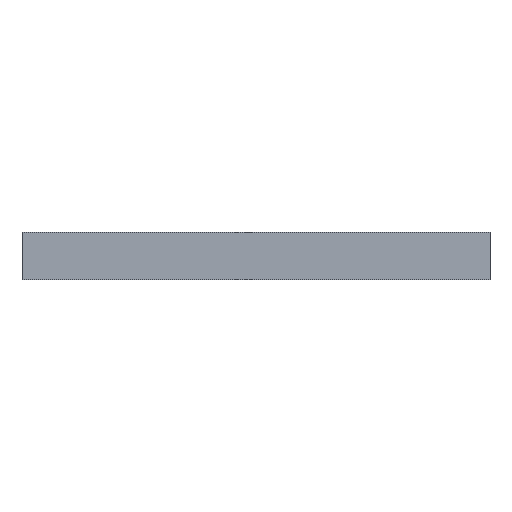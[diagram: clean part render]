
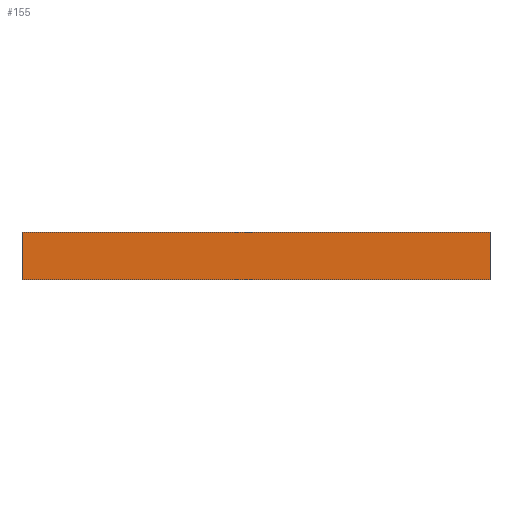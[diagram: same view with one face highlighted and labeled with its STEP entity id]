
A CAD part, front view. The second image highlights one B-rep face of the part: STEP entity #155.
In plain terms, the highlighted planar face has unit normal (0, -1, 0).
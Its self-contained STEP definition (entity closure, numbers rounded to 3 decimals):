
#37 = DIRECTION ( 'NONE',  ( 0., 0., 1. ) ) ;
#44 = EDGE_CURVE ( 'NONE', #732, #150, #873, .T. ) ;
#76 = CARTESIAN_POINT ( 'NONE',  ( 413.978, -893.158, 18. ) ) ;
#82 = CARTESIAN_POINT ( 'NONE',  ( 237.978, -893.158, 18. ) ) ;
#99 = EDGE_CURVE ( 'NONE', #805, #732, #426, .T. ) ;
#150 = VERTEX_POINT ( 'NONE', #612 ) ;
#155 = ADVANCED_FACE ( 'NONE', ( #512 ), #455, .F. ) ;
#178 = CARTESIAN_POINT ( 'NONE',  ( 413.978, -893.158, 0. ) ) ;
#184 = AXIS2_PLACEMENT_3D ( 'NONE', #76, #402, #37 ) ;
#215 = DIRECTION ( 'NONE',  ( 0., 0., -1. ) ) ;
#260 = EDGE_LOOP ( 'NONE', ( #789, #497, #284, #539 ) ) ;
#284 = ORIENTED_EDGE ( 'NONE', *, *, #99, .F. ) ;
#288 = CARTESIAN_POINT ( 'NONE',  ( 413.978, -893.158, 18. ) ) ;
#299 = CARTESIAN_POINT ( 'NONE',  ( 413.978, -893.158, 18. ) ) ;
#317 = DIRECTION ( 'NONE',  ( 1., 0., 0. ) ) ;
#337 = VERTEX_POINT ( 'NONE', #735 ) ;
#361 = CARTESIAN_POINT ( 'NONE',  ( 413.978, -893.158, 18. ) ) ;
#374 = VECTOR ( 'NONE', #317, 1000. ) ;
#387 = LINE ( 'NONE', #178, #374 ) ;
#402 = DIRECTION ( 'NONE',  ( 0., 1., 0. ) ) ;
#404 = LINE ( 'NONE', #82, #592 ) ;
#426 = LINE ( 'NONE', #299, #473 ) ;
#455 = PLANE ( 'NONE',  #184 ) ;
#473 = VECTOR ( 'NONE', #748, 1000. ) ;
#497 = ORIENTED_EDGE ( 'NONE', *, *, #44, .F. ) ;
#512 = FACE_OUTER_BOUND ( 'NONE', #260, .T. ) ;
#539 = ORIENTED_EDGE ( 'NONE', *, *, #866, .T. ) ;
#573 = EDGE_CURVE ( 'NONE', #337, #150, #387, .T. ) ;
#592 = VECTOR ( 'NONE', #215, 1000. ) ;
#612 = CARTESIAN_POINT ( 'NONE',  ( 413.978, -893.158, 0. ) ) ;
#702 = VECTOR ( 'NONE', #711, 1000. ) ;
#711 = DIRECTION ( 'NONE',  ( 0., 0., -1. ) ) ;
#730 = CARTESIAN_POINT ( 'NONE',  ( 237.978, -893.158, 18. ) ) ;
#732 = VERTEX_POINT ( 'NONE', #361 ) ;
#735 = CARTESIAN_POINT ( 'NONE',  ( 237.978, -893.158, 0. ) ) ;
#748 = DIRECTION ( 'NONE',  ( 1., 0., 0. ) ) ;
#789 = ORIENTED_EDGE ( 'NONE', *, *, #573, .T. ) ;
#805 = VERTEX_POINT ( 'NONE', #730 ) ;
#866 = EDGE_CURVE ( 'NONE', #805, #337, #404, .T. ) ;
#873 = LINE ( 'NONE', #288, #702 ) ;
